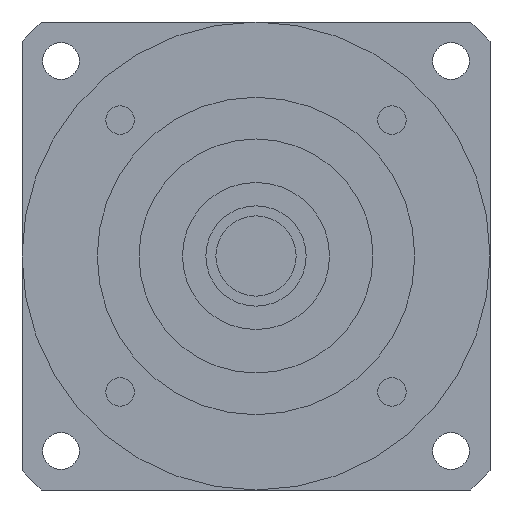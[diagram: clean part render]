
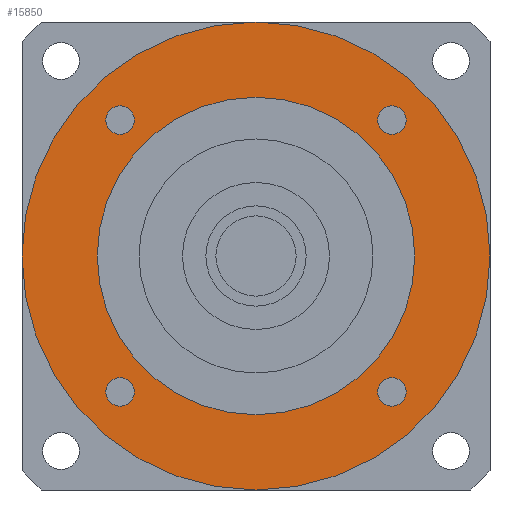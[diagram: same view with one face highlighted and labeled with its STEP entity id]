
A CAD part, left-side view. The second image highlights one B-rep face of the part: STEP entity #15850.
In plain terms, the highlighted planar face has unit normal (-1, 0, 0) as drawn and (0, 0, -1) by its records, which use the part's own axes.
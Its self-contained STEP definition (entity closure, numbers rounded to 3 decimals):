
#14690=CARTESIAN_POINT('',(-70.,0.,-59.701));
#14700=VERTEX_POINT('',#14690);
#14730=CARTESIAN_POINT('',(0.,0.,
-59.701));
#14740=DIRECTION('',(0.,0.,-1.));
#14750=DIRECTION('',(0.,-1.,0.));
#14760=AXIS2_PLACEMENT_3D('',#14730,#14740,#14750);
#14770=CIRCLE('',#14760,70.);
#14780=CARTESIAN_POINT('',(70.,0.,-59.701));
#14790=VERTEX_POINT('',#14780);
#14800=EDGE_CURVE('',#14700,#14790,#14770,.T.);
#14920=CARTESIAN_POINT('',(0.,0.,
-59.701));
#14930=DIRECTION('',(0.,0.,-1.));
#14940=DIRECTION('',(1.,0.,0.));
#14950=AXIS2_PLACEMENT_3D('',#14920,#14930,#14940);
#14960=PLANE('',#14950);
#14970=CARTESIAN_POINT('',(40.659,40.659,-59.701));
#14980=DIRECTION('',(0.,0.,-1.));
#14990=DIRECTION('',(0.,1.,0.));
#15000=AXIS2_PLACEMENT_3D('',#14970,#14980,#14990);
#15010=CIRCLE('',#15000,4.25);
#15020=CARTESIAN_POINT('',(40.659,44.909,-59.701));
#15030=VERTEX_POINT('',#15020);
#15040=CARTESIAN_POINT('',(40.659,36.409,-59.701));
#15050=VERTEX_POINT('',#15040);
#15060=EDGE_CURVE('',#15030,#15050,#15010,.T.);
#15070=ORIENTED_EDGE('',*,*,#15060,.F.);
#15080=EDGE_CURVE('',#15050,#15030,#15010,.T.);
#15090=ORIENTED_EDGE('',*,*,#15080,.F.);
#15100=EDGE_LOOP('',(#15090,#15070));
#15110=FACE_BOUND('',#15100,.T.);
#15120=CARTESIAN_POINT('',(-40.659,40.659,-59.701));
#15130=DIRECTION('',(0.,0.,-1.));
#15140=DIRECTION('',(-1.,0.,0.));
#15150=AXIS2_PLACEMENT_3D('',#15120,#15130,#15140);
#15160=CIRCLE('',#15150,4.25);
#15170=CARTESIAN_POINT('',(-44.909,40.659,-59.701));
#15180=VERTEX_POINT('',#15170);
#15190=CARTESIAN_POINT('',(-36.409,40.659,-59.701));
#15200=VERTEX_POINT('',#15190);
#15210=EDGE_CURVE('',#15180,#15200,#15160,.T.);
#15220=ORIENTED_EDGE('',*,*,#15210,.F.);
#15230=EDGE_CURVE('',#15200,#15180,#15160,.T.);
#15240=ORIENTED_EDGE('',*,*,#15230,.F.);
#15250=EDGE_LOOP('',(#15240,#15220));
#15260=FACE_BOUND('',#15250,.T.);
#15270=CARTESIAN_POINT('',(-40.659,-40.659,-59.701))
;
#15280=DIRECTION('',(0.,0.,-1.));
#15290=DIRECTION('',(0.,-1.,0.));
#15300=AXIS2_PLACEMENT_3D('',#15270,#15280,#15290);
#15310=CIRCLE('',#15300,4.25);
#15320=CARTESIAN_POINT('',(-40.659,-44.909,-59.701))
;
#15330=VERTEX_POINT('',#15320);
#15340=CARTESIAN_POINT('',(-40.659,-36.409,-59.701))
;
#15350=VERTEX_POINT('',#15340);
#15360=EDGE_CURVE('',#15330,#15350,#15310,.T.);
#15370=ORIENTED_EDGE('',*,*,#15360,.F.);
#15380=EDGE_CURVE('',#15350,#15330,#15310,.T.);
#15390=ORIENTED_EDGE('',*,*,#15380,.F.);
#15400=EDGE_LOOP('',(#15390,#15370));
#15410=FACE_BOUND('',#15400,.T.);
#15420=CARTESIAN_POINT('',(0.,0.,
-59.701));
#15430=DIRECTION('',(0.,0.,1.));
#15440=DIRECTION('',(0.,1.,0.));
#15450=AXIS2_PLACEMENT_3D('',#15420,#15430,#15440);
#15460=CIRCLE('',#15450,47.5);
#15470=CARTESIAN_POINT('',(-47.5,0.,-59.701));
#15480=VERTEX_POINT('',#15470);
#15490=CARTESIAN_POINT('',(47.5,0.,-59.701));
#15500=VERTEX_POINT('',#15490);
#15510=EDGE_CURVE('',#15480,#15500,#15460,.T.);
#15520=ORIENTED_EDGE('',*,*,#15510,.T.);
#15530=CARTESIAN_POINT('',(0.,47.5,-59.701));
#15540=VERTEX_POINT('',#15530);
#15550=EDGE_CURVE('',#15540,#15480,#15460,.T.);
#15560=ORIENTED_EDGE('',*,*,#15550,.T.);
#15570=EDGE_CURVE('',#15500,#15540,#15460,.T.);
#15580=ORIENTED_EDGE('',*,*,#15570,.T.);
#15590=EDGE_LOOP('',(#15580,#15560,#15520));
#15600=FACE_BOUND('',#15590,.T.);
#15610=CARTESIAN_POINT('',(40.659,-40.659,-59.701));
#15620=DIRECTION('',(0.,0.,-1.));
#15630=DIRECTION('',(1.,0.,0.));
#15640=AXIS2_PLACEMENT_3D('',#15610,#15620,#15630);
#15650=CIRCLE('',#15640,4.25);
#15660=CARTESIAN_POINT('',(44.909,-40.659,-59.701));
#15670=VERTEX_POINT('',#15660);
#15680=CARTESIAN_POINT('',(36.409,-40.659,-59.701));
#15690=VERTEX_POINT('',#15680);
#15700=EDGE_CURVE('',#15670,#15690,#15650,.T.);
#15710=ORIENTED_EDGE('',*,*,#15700,.F.);
#15720=EDGE_CURVE('',#15690,#15670,#15650,.T.);
#15730=ORIENTED_EDGE('',*,*,#15720,.F.);
#15740=EDGE_LOOP('',(#15730,#15710));
#15750=FACE_BOUND('',#15740,.T.);
#15760=ORIENTED_EDGE('',*,*,#14800,.T.);
#15770=CARTESIAN_POINT('',(0.,-70.,-59.701));
#15780=VERTEX_POINT('',#15770);
#15790=EDGE_CURVE('',#15780,#14700,#14770,.T.);
#15800=ORIENTED_EDGE('',*,*,#15790,.T.);
#15810=EDGE_CURVE('',#14790,#15780,#14770,.T.);
#15820=ORIENTED_EDGE('',*,*,#15810,.T.);
#15830=EDGE_LOOP('',(#15820,#15800,#15760));
#15840=FACE_OUTER_BOUND('',#15830,.T.);
#15850=ADVANCED_FACE('',(#15110,#15260,#15410,#15600,#15750,#15840),
#14960,.T.);
